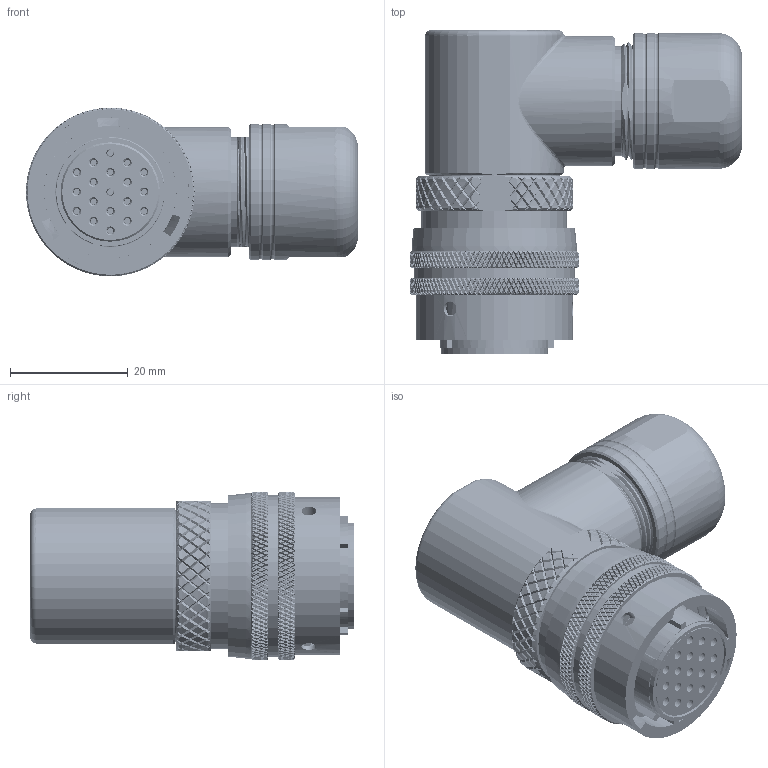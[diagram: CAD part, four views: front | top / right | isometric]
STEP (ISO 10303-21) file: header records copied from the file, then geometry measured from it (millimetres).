
FILE_DESCRIPTION (( 'STEP AP214' ), '1' );
FILE_NAME ('CMB08E-14-19S（072）SR-B.STEP', '2023-03-15T03:12:38', ( 'Windows User' ), ( 'P R C' ), 'SwSTEP 2.0', 'SolidWorks 2019', '' );
FILE_SCHEMA (( 'AUTOMOTIVE_DESIGN' ));
Length unit declared in the file: millimetre
Products named in the file (1): CMB08E-14-19S（072）SR-B
Bounding box: 56.29 x 54.85 x 28.57 mm (x, y, z)
Volume: 20791.5 mm3; surface area: 27563.4 mm2
Topology: 19 solids, 19 shells, 8803 faces, 20667 edges, 11944 vertices
Faces by surface type: bspline 4599, cylinder 1773, cone 1354, plane 715, torus 362
Entity records: 345957 total; most frequent: CARTESIAN_POINT 180399, ORIENTED_EDGE 41258, DIRECTION 21732, EDGE_CURVE 20629, VERTEX_POINT 11944, B_SPLINE_CURVE_WITH_KNOTS 11311, EDGE_LOOP 8991, FACE_OUTER_BOUND 8803
